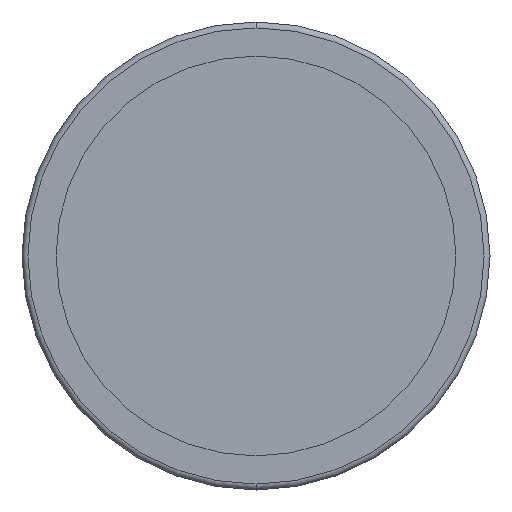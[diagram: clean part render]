
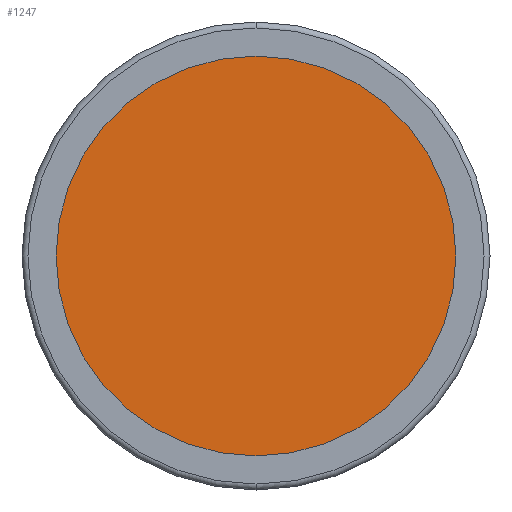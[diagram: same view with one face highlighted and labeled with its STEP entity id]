
A CAD part, front view. The second image highlights one B-rep face of the part: STEP entity #1247.
In plain terms, the highlighted planar face has unit normal (0, -1, 0).
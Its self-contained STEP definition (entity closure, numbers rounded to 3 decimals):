
#129 = VERTEX_POINT ( 'NONE', #130 ) ;
#130 = CARTESIAN_POINT ( 'NONE',  ( 0., -2., -33.75 ) ) ;
#484 = EDGE_CURVE ( 'NONE', #129, #1155, #1406, .T. ) ;
#485 = CARTESIAN_POINT ( 'NONE',  ( 0., -2., 33.75 ) ) ;
#616 = EDGE_LOOP ( 'NONE', ( #1420, #2348 ) ) ;
#659 = CIRCLE ( 'NONE', #774, 33.75 ) ;
#689 = DIRECTION ( 'NONE',  ( 0., 1., 0. ) ) ;
#750 = CARTESIAN_POINT ( 'NONE',  ( -33.75, -2., 0. ) ) ;
#774 = AXIS2_PLACEMENT_3D ( 'NONE', #1637, #2209, #2023 ) ;
#937 = DIRECTION ( 'NONE',  ( 0., -1., 0. ) ) ;
#973 = AXIS2_PLACEMENT_3D ( 'NONE', #750, #937, #1674 ) ;
#1155 = VERTEX_POINT ( 'NONE', #485 ) ;
#1247 = ADVANCED_FACE ( 'NONE', ( #1838 ), #1497, .T. ) ;
#1406 = CIRCLE ( 'NONE', #1531, 33.75 ) ;
#1420 = ORIENTED_EDGE ( 'NONE', *, *, #1679, .F. ) ;
#1497 = PLANE ( 'NONE',  #973 ) ;
#1531 = AXIS2_PLACEMENT_3D ( 'NONE', #1632, #689, #2205 ) ;
#1632 = CARTESIAN_POINT ( 'NONE',  ( 0., -2., 0. ) ) ;
#1637 = CARTESIAN_POINT ( 'NONE',  ( 0., -2., 0. ) ) ;
#1674 = DIRECTION ( 'NONE',  ( 0., 0., -1. ) ) ;
#1679 = EDGE_CURVE ( 'NONE', #1155, #129, #659, .T. ) ;
#1838 = FACE_OUTER_BOUND ( 'NONE', #616, .T. ) ;
#2023 = DIRECTION ( 'NONE',  ( 0., 0., 1. ) ) ;
#2205 = DIRECTION ( 'NONE',  ( 0., 0., 1. ) ) ;
#2209 = DIRECTION ( 'NONE',  ( 0., 1., 0. ) ) ;
#2348 = ORIENTED_EDGE ( 'NONE', *, *, #484, .F. ) ;
